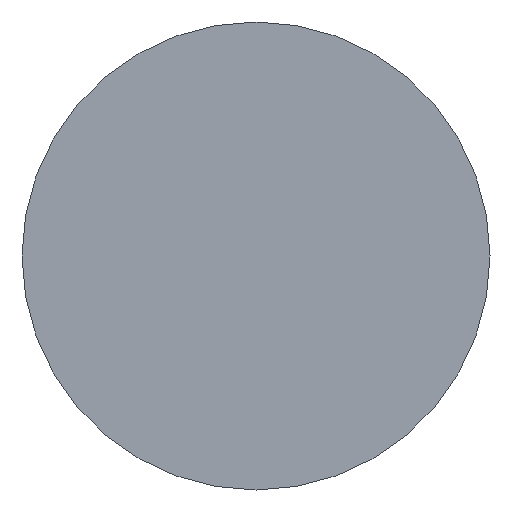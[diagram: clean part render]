
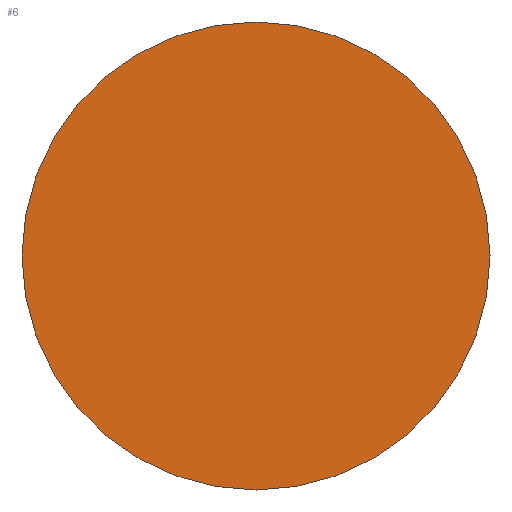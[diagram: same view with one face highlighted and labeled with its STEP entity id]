
A CAD part, left-side view. The second image highlights one B-rep face of the part: STEP entity #6.
In plain terms, the highlighted planar face has unit normal (-1, 0, 0).
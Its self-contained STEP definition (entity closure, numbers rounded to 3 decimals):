
#4 = EDGE_CURVE ( 'NONE', #19, #124, #219, .T. ) ;
#6 = ADVANCED_FACE ( 'NONE', ( #95 ), #262, .T. ) ;
#14 = EDGE_CURVE ( 'NONE', #124, #19, #76, .T. ) ;
#15 = CARTESIAN_POINT ( 'NONE',  ( 0., 0., 0. ) ) ;
#19 = VERTEX_POINT ( 'NONE', #212 ) ;
#76 = CIRCLE ( 'NONE', #92, 3.5 ) ;
#92 = AXIS2_PLACEMENT_3D ( 'NONE', #245, #184, #154 ) ;
#95 = FACE_OUTER_BOUND ( 'NONE', #106, .T. ) ;
#106 = EDGE_LOOP ( 'NONE', ( #138, #270 ) ) ;
#107 = DIRECTION ( 'NONE',  ( 1., 0., 0. ) ) ;
#124 = VERTEX_POINT ( 'NONE', #167 ) ;
#138 = ORIENTED_EDGE ( 'NONE', *, *, #14, .F. ) ;
#154 = DIRECTION ( 'NONE',  ( 0., 1., 0. ) ) ;
#167 = CARTESIAN_POINT ( 'NONE',  ( 0., 3.5, 0. ) ) ;
#173 = DIRECTION ( 'NONE',  ( -1., 0., 0. ) ) ;
#181 = DIRECTION ( 'NONE',  ( 0., -1., 0. ) ) ;
#184 = DIRECTION ( 'NONE',  ( 1., 0., 0. ) ) ;
#212 = CARTESIAN_POINT ( 'NONE',  ( 0., -3.5, 0. ) ) ;
#215 = AXIS2_PLACEMENT_3D ( 'NONE', #15, #107, #261 ) ;
#219 = CIRCLE ( 'NONE', #215, 3.5 ) ;
#239 = AXIS2_PLACEMENT_3D ( 'NONE', #246, #173, #181 ) ;
#245 = CARTESIAN_POINT ( 'NONE',  ( 0., 0., 0. ) ) ;
#246 = CARTESIAN_POINT ( 'NONE',  ( 0., 0., 0. ) ) ;
#261 = DIRECTION ( 'NONE',  ( 0., 1., 0. ) ) ;
#262 = PLANE ( 'NONE',  #239 ) ;
#270 = ORIENTED_EDGE ( 'NONE', *, *, #4, .F. ) ;
